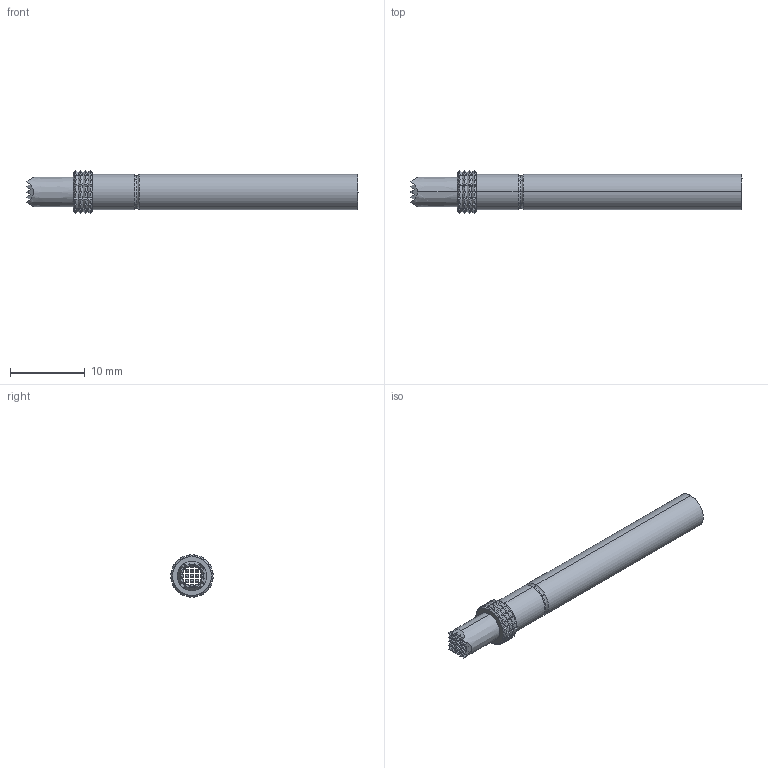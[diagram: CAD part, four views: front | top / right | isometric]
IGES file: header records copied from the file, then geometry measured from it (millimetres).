
Start section: SolidWorks IGES file using analytic representation for surfaces
Global section: file name: O:\PYLON\IGES FILES\P4301\P4301-1W.IGS; native system: SolidWorks 2015; preprocessor: SolidWorks 2015; author: kgolden; date: 171020.122953; units: inch
Bounding box: 44.45 x 5.7 x 5.7 mm (x, y, z)
Surface area: 1245.5 mm2 (no closed solid volume)
Topology: 0 solids, 0 shells, 481 faces, 2477 edges, 2477 vertices
Faces by surface type: bspline 288, revolution 193
